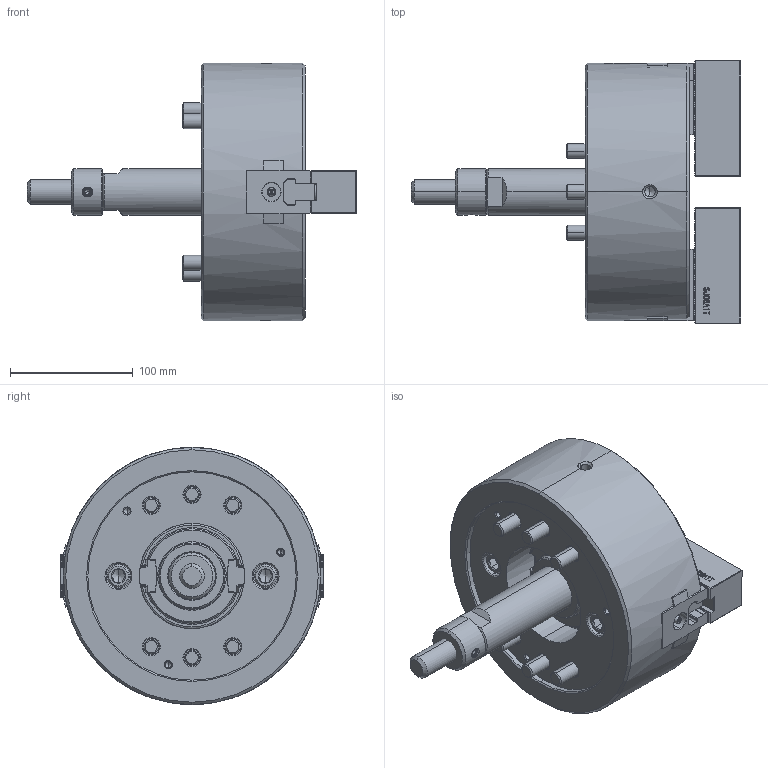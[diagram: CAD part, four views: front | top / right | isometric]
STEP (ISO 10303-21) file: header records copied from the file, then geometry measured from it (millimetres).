
FILE_DESCRIPTION (( 'STEP AP214' ), '1' );
FILE_NAME ('DT1_NLT08_OUTSIDE_VIEW_HUL.STEP', '2026-03-23T04:18:13', ( '' ), ( '' ), 'SwSTEP 2.0', 'SolidWorks 2022', '' );
FILE_SCHEMA (( 'AUTOMOTIVE_DESIGN' ));
Length unit declared in the file: millimetre
Products named in the file (11): DT1_NLT08_TNUT^DT1_NLT08; DT1_NLT08_M5x12^DT1_NLT08; DT1_NLT08_OUTSIDE_VIEW_HUL; Copy of 61P310518^DT1_NLT08; DT1_NLT08_BASE^DT1_NLT08; DT1_NLT08_DRAWSCREW^DT1_NLT08; DT1_NLT08_DN^DT1_NLT08; DT1_NLT08_SOFTJAW^DT1_NLT08; DT1_NLT08_M12x85^DT1_NLT08; DT1_NLT08_COVER^DT1_NLT08; DT1_NLT08_M12x35^DT1_NLT08
Assembly tree (23 placements, depth 2):
  DT1_NLT08_OUTSIDE_VIEW_HUL
    DT1_NLT08_SOFTJAW^DT1_NLT08  x2
    DT1_NLT08_TNUT^DT1_NLT08  x2
    DT1_NLT08_COVER^DT1_NLT08
    DT1_NLT08_DRAWSCREW^DT1_NLT08
    Copy of 61P310518^DT1_NLT08
    DT1_NLT08_DN^DT1_NLT08
    DT1_NLT08_BASE^DT1_NLT08
    DT1_NLT08_M12x85^DT1_NLT08  x6
    DT1_NLT08_M12x35^DT1_NLT08  x4
    DT1_NLT08_M5x12^DT1_NLT08  x4
Bounding box: 268.69 x 215.15 x 210 mm (x, y, z)
Volume: 3004028.3 mm3; surface area: 349994.7 mm2
Topology: 23 solids, 23 shells, 3755 faces, 10545 edges, 6889 vertices
Faces by surface type: plane 2136, cylinder 919, cone 376, bspline 269, torus 51, sphere 4
Entity records: 94570 total; most frequent: CARTESIAN_POINT 28840, ORIENTED_EDGE 14970, DIRECTION 11581, EDGE_CURVE 7485, LINE 5051, VECTOR 5051, VERTEX_POINT 4908, AXIS2_PLACEMENT_3D 3265
